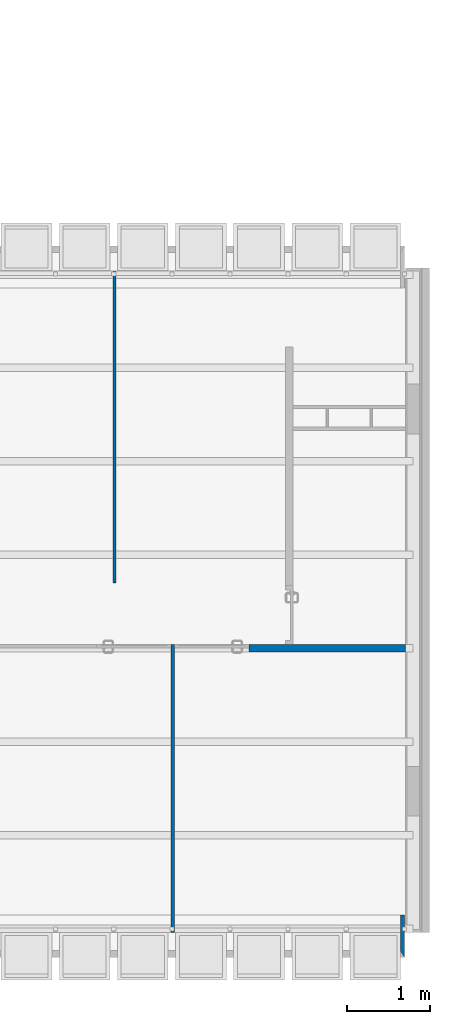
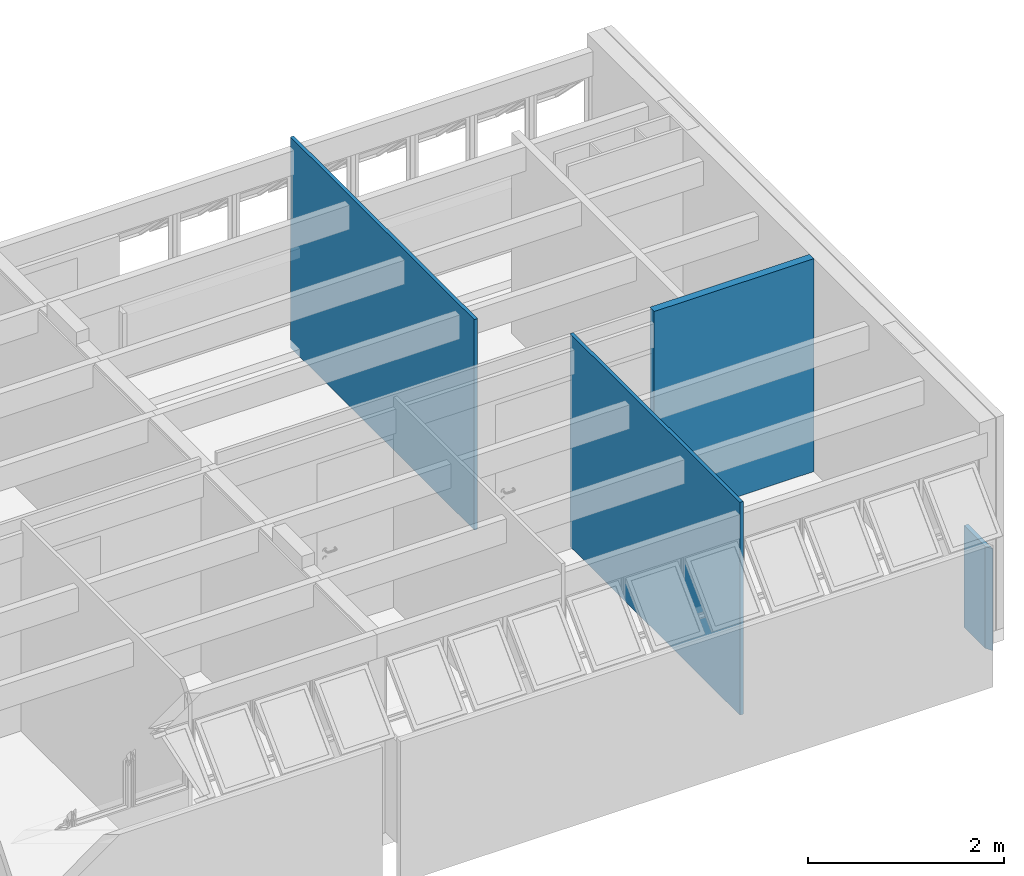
# One storey, part 10 of 38: 4 walls.
"""IFC2X3 building model written with IfcOpenShell, lengths in millimetres."""

from ifc_helpers import new_model, entity, si_unit, converted_unit, derived_unit, money_unit, direction, frame, origin_with_axes, place, context, subcontext, project, spatial, polyline, outline, extrude, material, layer, layer_set, layer_usage, type_object, element, save


model = new_model("IFC2X3")

# Units and contexts
model_context = context("Model", 3, precision=0.01, world=origin_with_axes(), true_north=direction((0.0, 1.0)))
body_context = subcontext(model_context, "Body", "Model", "MODEL_VIEW")
ifc_project = project(units=[si_unit("LENGTHUNIT", "METRE", prefix="MILLI"), si_unit("AREAUNIT", "SQUARE_METRE"), si_unit("VOLUMEUNIT", "CUBIC_METRE"), converted_unit("PLANEANGLEUNIT", "DEGREE", entity("IfcPlaneAngleMeasure", 0.0174532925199), si_unit("PLANEANGLEUNIT", "RADIAN"), dimensions=[0, 0, 0, 0, 0, 0, 0]), money_unit("USD"), converted_unit("TIMEUNIT", "Year", entity("IfcTimeMeasure", 31556926.0), si_unit("TIMEUNIT", "SECOND"), dimensions=[0, 0, 1, 0, 0, 0, 0]), si_unit("MASSUNIT", "GRAM", prefix="KILO"), si_unit("THERMODYNAMICTEMPERATUREUNIT", "DEGREE_CELSIUS"), si_unit("LUMINOUSINTENSITYUNIT", "LUMEN"), si_unit("ENERGYUNIT", "JOULE", prefix="MEGA"), derived_unit("THERMALCONDUCTANCEUNIT", [(si_unit("POWERUNIT", "WATT"), 1), (si_unit("LENGTHUNIT", "METRE"), -1), (si_unit("THERMODYNAMICTEMPERATUREUNIT", "KELVIN"), -1)]), derived_unit("SPECIFICHEATCAPACITYUNIT", [(si_unit("ENERGYUNIT", "JOULE"), 1), (si_unit("MASSUNIT", "GRAM", prefix="KILO"), -1), (si_unit("THERMODYNAMICTEMPERATUREUNIT", "KELVIN"), -1)]), derived_unit("MASSDENSITYUNIT", [(si_unit("MASSUNIT", "GRAM", prefix="KILO"), 1), (si_unit("VOLUMEUNIT", "CUBIC_METRE"), -1)])], contexts=[model_context])

# Site, building, storey
site_placement = place(None, origin_with_axes())
site = spatial("IfcSite", under=ifc_project, at=site_placement, Name="Local", CompositionType="ELEMENT")
building_placement = place(site_placement, origin_with_axes())
building = spatial("IfcBuilding", under=site, at=building_placement, Name="Construção", CompositionType="ELEMENT")
storey_placement = place(building_placement, frame((0.0, 0.0, 2650.0), z_axis=(0.0, 0.0, 1.0), x_axis=(1.0, 0.0, 0.0)))
storey = spatial("IfcBuildingStorey", under=building, at=storey_placement, Name="Segundo Pavimento", CompositionType="ELEMENT", Elevation=2650.0)

# Walls
ifc_material_1 = material(Name="GENÉRICO - VEDAÇÃO EXTERNA")
ifc_layer_1 = layer(ifc_material_1, 40.0, ventilated="UNKNOWN")
ifc_layer_set_1 = layer_set([ifc_layer_1], Name="GENÉRICO - VEDAÇÃO EXTERNA 40")
ifc_layer_usage_1 = layer_usage(ifc_layer_set_1, "AXIS2", "POSITIVE", -40.0)
wall_type_1 = type_object("IfcWallType", Name="GENÉRICO - VEDAÇÃO EXTERNA 40", PredefinedType="NOTDEFINED")
wall_1_placement = place(storey_placement, frame((10960.0, 4505.0, 0.0), z_axis=(0.0, 0.0, 1.0), x_axis=(0.0, 1.0, 0.0)))
element("IfcWallStandardCase", 1, at=wall_1_placement, inside=storey, type_object=wall_type_1, material=ifc_layer_usage_1, Name="APTO6-PAREDE-003", context=body_context, shape_type="SweptSolid", body=[
    extrude(outline(polyline([(0.0, -40.0), (3750.0, -40.0), (3750.0, 0.0), (0.0, 0.0), (0.0, -40.0)])), origin_with_axes(), (0.0, 0.0, 1.0), 2620.0),
])
ifc_layer_usage_2 = layer_usage(ifc_layer_set_1, "AXIS2", "POSITIVE", 0.0)
wall_2_placement = place(storey_placement, frame((11660.0, 3765.0, 0.0), z_axis=(0.0, 0.0, 1.0), x_axis=(0.0, -1.0, 0.0)))
element("IfcWallStandardCase", 2, at=wall_2_placement, inside=storey, type_object=wall_type_1, material=ifc_layer_usage_2, Name="APTO6-PAREDE-007", context=body_context, shape_type="SweptSolid", body=[
    extrude(outline(polyline([(0.0, 0.0), (3465.0, 0.0), (3465.0, 40.0), (0.0, 40.0), (0.0, 0.0)])), origin_with_axes(), (0.0, 0.0, 1.0), 2650.0),
])
ifc_layer_2 = layer(ifc_material_1, 90.0, ventilated="UNKNOWN")
ifc_layer_set_2 = layer_set([ifc_layer_2], Name="GENÉRICO - VEDAÇÃO EXTERNA 90")
ifc_layer_usage_3 = layer_usage(ifc_layer_set_2, "AXIS2", "POSITIVE", 0.0)
wall_type_2 = type_object("IfcWallType", Name="GENÉRICO - VEDAÇÃO EXTERNA 90", PredefinedType="NOTDEFINED")
wall_3_placement = place(storey_placement, frame((14480.0, 3765.2195667, 0.0), z_axis=(0.0, 0.0, 1.0), x_axis=(-1.0, 0.0, 0.0)))
element("IfcWallStandardCase", 3, at=wall_3_placement, inside=storey, type_object=wall_type_2, material=ifc_layer_usage_3, Name="APTO6-PAREDE-019", context=body_context, shape_type="SweptSolid", body=[
    extrude(outline(polyline([(0.0, 0.0), (1880.0, 0.0), (1879.99807021, 90.0), (0.0, 90.0), (0.0, 0.0)])), origin_with_axes(), (0.0, 0.0, 1.0), 2650.0),
])
ifc_material_2 = material(Name="Concreto Armado Moldado in Loco - Estrutural")
ifc_layer_3 = layer(ifc_material_2, 50.0, ventilated="UNKNOWN")
ifc_layer_set_3 = layer_set([ifc_layer_3], Name="Concreto Armado Moldado in Loco - Estrutural 50")
ifc_layer_usage_4 = layer_usage(ifc_layer_set_3, "AXIS2", "POSITIVE", -50.0)
wall_type_3 = type_object("IfcWallType", Name="Concreto Armado Moldado in Loco - Estrutural 50", PredefinedType="NOTDEFINED")
wall_4_placement = place(storey_placement, frame((14470.0, 510.0, 0.0), z_axis=(0.0, 0.0, 1.0), x_axis=(0.0, -1.0, 0.0)))
element("IfcWallStandardCase", 4, at=wall_4_placement, inside=storey, type_object=wall_type_3, material=ifc_layer_usage_4, Name="APTO6-PAREDE-002", context=body_context, shape_type="SweptSolid", body=[
    extrude(outline(polyline([(0.0, -50.0), (430.0, -50.0), (510.0, 0.0), (0.0, 0.0), (0.0, -50.0)])), origin_with_axes(), (0.0, 0.0, 1.0), 1270.0),
])

save(model, "model.ifc")
